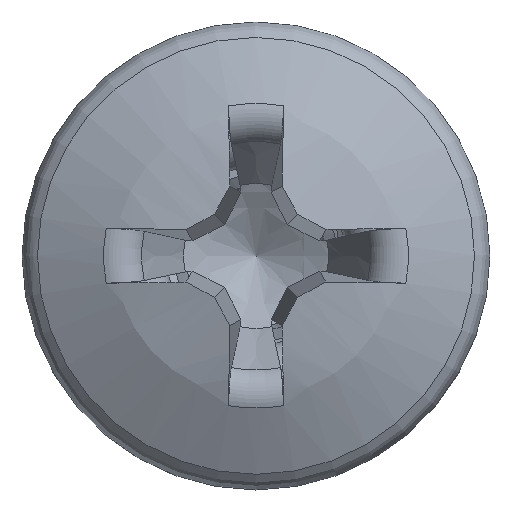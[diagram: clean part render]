
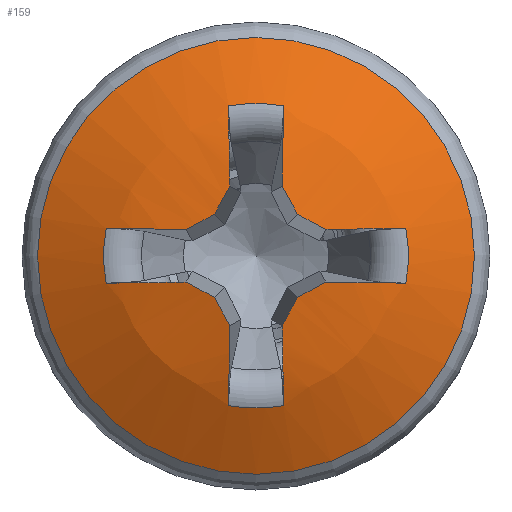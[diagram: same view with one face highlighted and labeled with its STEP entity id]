
A CAD part, top view. The second image highlights one B-rep face of the part: STEP entity #159.
In plain terms, the highlighted spherical face has radius 11.406 mm.
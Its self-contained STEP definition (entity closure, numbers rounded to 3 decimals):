
#122=SPHERICAL_SURFACE('',#930,11.406);
#133=FACE_BOUND('',#262,.T.);
#134=FACE_BOUND('',#263,.T.);
#159=ADVANCED_FACE('',(#133,#134),#122,.T.);
#262=EDGE_LOOP('',(#381));
#263=EDGE_LOOP('',(#382,#383,#384,#385,#386,#387,#388,#389,#390,#391,#392,
#393,#394,#395,#396,#397,#398,#399,#400,#401));
#324=CIRCLE('',#909,5.743);
#325=CIRCLE('',#910,11.401);
#326=CIRCLE('',#911,4.005);
#327=CIRCLE('',#912,11.401);
#328=CIRCLE('',#913,11.401);
#329=CIRCLE('',#914,11.401);
#330=CIRCLE('',#915,11.401);
#331=CIRCLE('',#916,4.005);
#332=CIRCLE('',#917,11.401);
#333=CIRCLE('',#918,11.401);
#334=CIRCLE('',#919,11.401);
#335=CIRCLE('',#920,11.401);
#336=CIRCLE('',#921,4.005);
#337=CIRCLE('',#922,11.401);
#338=CIRCLE('',#923,11.401);
#339=CIRCLE('',#924,11.401);
#340=CIRCLE('',#925,11.401);
#341=CIRCLE('',#926,4.005);
#342=CIRCLE('',#927,11.401);
#343=CIRCLE('',#928,11.401);
#344=CIRCLE('',#929,11.401);
#381=ORIENTED_EDGE('',*,*,#726,.T.);
#382=ORIENTED_EDGE('',*,*,#727,.F.);
#383=ORIENTED_EDGE('',*,*,#728,.T.);
#384=ORIENTED_EDGE('',*,*,#729,.F.);
#385=ORIENTED_EDGE('',*,*,#730,.F.);
#386=ORIENTED_EDGE('',*,*,#731,.F.);
#387=ORIENTED_EDGE('',*,*,#732,.F.);
#388=ORIENTED_EDGE('',*,*,#733,.T.);
#389=ORIENTED_EDGE('',*,*,#734,.F.);
#390=ORIENTED_EDGE('',*,*,#735,.F.);
#391=ORIENTED_EDGE('',*,*,#736,.F.);
#392=ORIENTED_EDGE('',*,*,#737,.F.);
#393=ORIENTED_EDGE('',*,*,#738,.T.);
#394=ORIENTED_EDGE('',*,*,#739,.F.);
#395=ORIENTED_EDGE('',*,*,#740,.F.);
#396=ORIENTED_EDGE('',*,*,#741,.F.);
#397=ORIENTED_EDGE('',*,*,#742,.F.);
#398=ORIENTED_EDGE('',*,*,#743,.T.);
#399=ORIENTED_EDGE('',*,*,#744,.F.);
#400=ORIENTED_EDGE('',*,*,#745,.F.);
#401=ORIENTED_EDGE('',*,*,#746,.F.);
#637=VERTEX_POINT('',#1723);
#638=VERTEX_POINT('',#1725);
#639=VERTEX_POINT('',#1726);
#640=VERTEX_POINT('',#1728);
#641=VERTEX_POINT('',#1730);
#642=VERTEX_POINT('',#1732);
#643=VERTEX_POINT('',#1734);
#644=VERTEX_POINT('',#1736);
#645=VERTEX_POINT('',#1738);
#646=VERTEX_POINT('',#1740);
#647=VERTEX_POINT('',#1742);
#648=VERTEX_POINT('',#1744);
#649=VERTEX_POINT('',#1746);
#650=VERTEX_POINT('',#1748);
#651=VERTEX_POINT('',#1750);
#652=VERTEX_POINT('',#1752);
#653=VERTEX_POINT('',#1754);
#654=VERTEX_POINT('',#1756);
#655=VERTEX_POINT('',#1758);
#656=VERTEX_POINT('',#1760);
#657=VERTEX_POINT('',#1762);
#726=EDGE_CURVE('',#637,#637,#324,.T.);
#727=EDGE_CURVE('',#638,#639,#325,.T.);
#728=EDGE_CURVE('',#638,#640,#326,.T.);
#729=EDGE_CURVE('',#641,#640,#327,.T.);
#730=EDGE_CURVE('',#642,#641,#328,.T.);
#731=EDGE_CURVE('',#643,#642,#329,.T.);
#732=EDGE_CURVE('',#644,#643,#330,.T.);
#733=EDGE_CURVE('',#644,#645,#331,.T.);
#734=EDGE_CURVE('',#646,#645,#332,.T.);
#735=EDGE_CURVE('',#647,#646,#333,.T.);
#736=EDGE_CURVE('',#648,#647,#334,.T.);
#737=EDGE_CURVE('',#649,#648,#335,.T.);
#738=EDGE_CURVE('',#649,#650,#336,.T.);
#739=EDGE_CURVE('',#651,#650,#337,.T.);
#740=EDGE_CURVE('',#652,#651,#338,.T.);
#741=EDGE_CURVE('',#653,#652,#339,.T.);
#742=EDGE_CURVE('',#654,#653,#340,.T.);
#743=EDGE_CURVE('',#654,#655,#341,.T.);
#744=EDGE_CURVE('',#656,#655,#342,.T.);
#745=EDGE_CURVE('',#657,#656,#343,.T.);
#746=EDGE_CURVE('',#639,#657,#344,.T.);
#909=AXIS2_PLACEMENT_3D('',#1722,#994,#995);
#910=AXIS2_PLACEMENT_3D('',#1724,#996,#997);
#911=AXIS2_PLACEMENT_3D('',#1727,#998,#999);
#912=AXIS2_PLACEMENT_3D('',#1729,#1000,#1001);
#913=AXIS2_PLACEMENT_3D('',#1731,#1002,#1003);
#914=AXIS2_PLACEMENT_3D('',#1733,#1004,#1005);
#915=AXIS2_PLACEMENT_3D('',#1735,#1006,#1007);
#916=AXIS2_PLACEMENT_3D('',#1737,#1008,#1009);
#917=AXIS2_PLACEMENT_3D('',#1739,#1010,#1011);
#918=AXIS2_PLACEMENT_3D('',#1741,#1012,#1013);
#919=AXIS2_PLACEMENT_3D('',#1743,#1014,#1015);
#920=AXIS2_PLACEMENT_3D('',#1745,#1016,#1017);
#921=AXIS2_PLACEMENT_3D('',#1747,#1018,#1019);
#922=AXIS2_PLACEMENT_3D('',#1749,#1020,#1021);
#923=AXIS2_PLACEMENT_3D('',#1751,#1022,#1023);
#924=AXIS2_PLACEMENT_3D('',#1753,#1024,#1025);
#925=AXIS2_PLACEMENT_3D('',#1755,#1026,#1027);
#926=AXIS2_PLACEMENT_3D('',#1757,#1028,#1029);
#927=AXIS2_PLACEMENT_3D('',#1759,#1030,#1031);
#928=AXIS2_PLACEMENT_3D('',#1761,#1032,#1033);
#929=AXIS2_PLACEMENT_3D('',#1763,#1034,#1035);
#930=AXIS2_PLACEMENT_3D('',#1764,#1036,#1037);
#994=DIRECTION('',(0.,0.,1.));
#995=DIRECTION('',(-1.,0.,0.));
#996=DIRECTION('',(-0.035,0.996,0.087));
#997=DIRECTION('',(0.,-0.087,0.996));
#998=DIRECTION('',(0.,0.,-1.));
#999=DIRECTION('',(-1.,0.,0.));
#1000=DIRECTION('',(-0.035,-0.996,0.087));
#1001=DIRECTION('',(0.,-0.087,-0.996));
#1002=DIRECTION('',(0.467,-0.879,0.1));
#1003=DIRECTION('',(0.883,0.469,0.));
#1004=DIRECTION('',(0.879,-0.467,0.1));
#1005=DIRECTION('',(0.469,0.883,0.));
#1006=DIRECTION('',(0.996,0.035,0.087));
#1007=DIRECTION('',(0.087,0.,-0.996));
#1008=DIRECTION('',(0.,0.,-1.));
#1009=DIRECTION('',(-1.,0.,0.));
#1010=DIRECTION('',(-0.996,0.035,0.087));
#1011=DIRECTION('',(0.087,0.,0.996));
#1012=DIRECTION('',(-0.879,-0.467,0.1));
#1013=DIRECTION('',(0.469,-0.883,0.));
#1014=DIRECTION('',(-0.467,-0.879,0.1));
#1015=DIRECTION('',(0.883,-0.469,0.));
#1016=DIRECTION('',(0.035,-0.996,0.087));
#1017=DIRECTION('',(0.,-0.087,-0.996));
#1018=DIRECTION('',(0.,0.,-1.));
#1019=DIRECTION('',(-1.,0.,0.));
#1020=DIRECTION('',(0.035,0.996,0.087));
#1021=DIRECTION('',(0.,-0.087,0.996));
#1022=DIRECTION('',(-0.467,0.879,0.1));
#1023=DIRECTION('',(-0.883,-0.469,0.));
#1024=DIRECTION('',(-0.879,0.467,0.1));
#1025=DIRECTION('',(-0.469,-0.883,0.));
#1026=DIRECTION('',(-0.996,-0.035,0.087));
#1027=DIRECTION('',(0.087,0.,0.996));
#1028=DIRECTION('',(0.,0.,-1.));
#1029=DIRECTION('',(-1.,0.,0.));
#1030=DIRECTION('',(0.996,-0.035,0.087));
#1031=DIRECTION('',(0.087,0.,-0.996));
#1032=DIRECTION('',(0.879,0.467,0.1));
#1033=DIRECTION('',(-0.469,0.883,0.));
#1034=DIRECTION('',(0.467,0.879,0.1));
#1035=DIRECTION('',(-0.883,0.469,0.));
#1036=DIRECTION('',(0.,0.,1.));
#1037=DIRECTION('',(0.,1.,0.));
#1722=CARTESIAN_POINT('',(0.,0.,2.949));
#1723=CARTESIAN_POINT('',(-5.743,0.,2.949));
#1724=CARTESIAN_POINT('',(-0.012,0.354,-6.875));
#1725=CARTESIAN_POINT('',(-3.94,-0.716,3.774));
#1726=CARTESIAN_POINT('',(-1.833,-0.691,4.33));
#1727=CARTESIAN_POINT('',(0.,0.,3.774));
#1728=CARTESIAN_POINT('',(-3.94,0.716,3.774));
#1729=CARTESIAN_POINT('',(-0.012,-0.354,-6.875));
#1730=CARTESIAN_POINT('',(-1.833,0.691,4.33));
#1731=CARTESIAN_POINT('',(-0.158,0.296,-6.94));
#1732=CARTESIAN_POINT('',(-1.092,1.092,4.395));
#1733=CARTESIAN_POINT('',(-0.296,0.158,-6.94));
#1734=CARTESIAN_POINT('',(-0.691,1.833,4.33));
#1735=CARTESIAN_POINT('',(0.354,0.012,-6.875));
#1736=CARTESIAN_POINT('',(-0.716,3.94,3.774));
#1737=CARTESIAN_POINT('',(0.,0.,3.774));
#1738=CARTESIAN_POINT('',(0.716,3.94,3.774));
#1739=CARTESIAN_POINT('',(-0.354,0.012,-6.875));
#1740=CARTESIAN_POINT('',(0.691,1.833,4.33));
#1741=CARTESIAN_POINT('',(0.296,0.158,-6.94));
#1742=CARTESIAN_POINT('',(1.092,1.092,4.395));
#1743=CARTESIAN_POINT('',(0.158,0.296,-6.94));
#1744=CARTESIAN_POINT('',(1.833,0.691,4.33));
#1745=CARTESIAN_POINT('',(0.012,-0.354,-6.875));
#1746=CARTESIAN_POINT('',(3.94,0.716,3.774));
#1747=CARTESIAN_POINT('',(0.,0.,3.774));
#1748=CARTESIAN_POINT('',(3.94,-0.716,3.774));
#1749=CARTESIAN_POINT('',(0.012,0.354,-6.875));
#1750=CARTESIAN_POINT('',(1.833,-0.691,4.33));
#1751=CARTESIAN_POINT('',(0.158,-0.296,-6.94));
#1752=CARTESIAN_POINT('',(1.092,-1.092,4.395));
#1753=CARTESIAN_POINT('',(0.296,-0.158,-6.94));
#1754=CARTESIAN_POINT('',(0.691,-1.833,4.33));
#1755=CARTESIAN_POINT('',(-0.354,-0.012,-6.875));
#1756=CARTESIAN_POINT('',(0.716,-3.94,3.774));
#1757=CARTESIAN_POINT('',(0.,0.,3.774));
#1758=CARTESIAN_POINT('',(-0.716,-3.94,3.774));
#1759=CARTESIAN_POINT('',(0.354,-0.012,-6.875));
#1760=CARTESIAN_POINT('',(-0.691,-1.833,4.33));
#1761=CARTESIAN_POINT('',(-0.296,-0.158,-6.94));
#1762=CARTESIAN_POINT('',(-1.092,-1.092,4.395));
#1763=CARTESIAN_POINT('',(-0.158,-0.296,-6.94));
#1764=CARTESIAN_POINT('',(0.,0.,-6.906));
